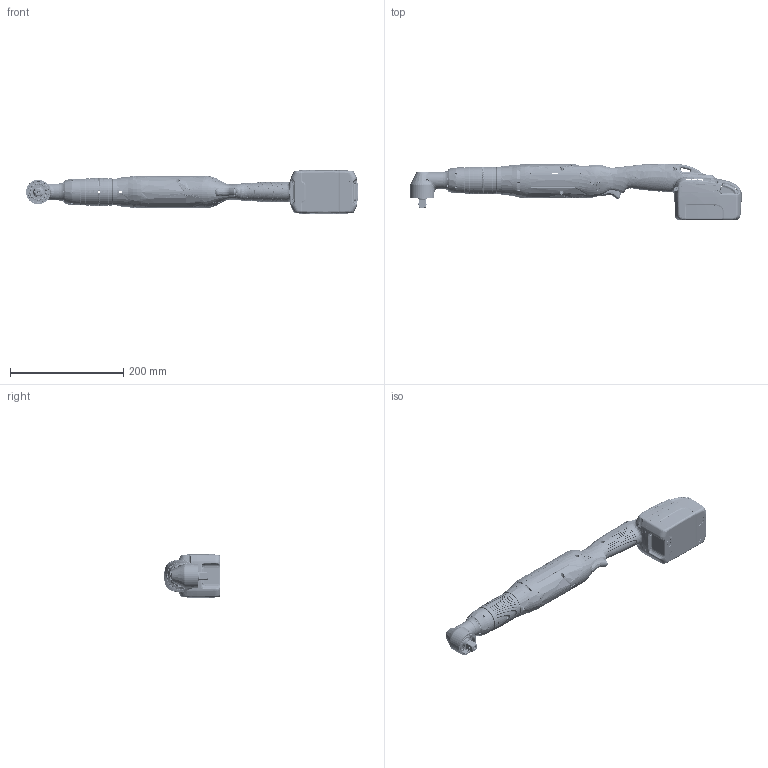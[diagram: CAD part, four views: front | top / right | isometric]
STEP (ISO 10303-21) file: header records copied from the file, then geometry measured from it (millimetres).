
FILE_DESCRIPTION((''),'2;1');
FILE_NAME('47532486001_ASM','2015-03-26T',('rryoung'),(''),'PRO/ENGINEER BY PARAMETRIC TECHNOLOGY CORPORATION, 2014430','PRO/ENGINEER BY PARAMETRIC TECHNOLOGY CORPORATION, 2014430','');
FILE_SCHEMA(('CONFIG_CONTROL_DESIGN'));
Products named in the file (44): 47518203001; 47518204001; 47518205001_ASM; 80119985; 80119977; 80120017_ASM; 47525369001; 03485760; 03485802; 03672441; 04348454; 22040760; 22041172; 03654712; 03654720; 03485729; 03123999; 03064201; 03072766; 47527609001_ASM; 47511904001; 47511179001; 22041180; 24482051; 24586463; 45500642; 24260093_ASM; 24361370; 47522589001; 47523342001; 24279325; 47086400; 24435927; 47523342001_ASM; 47086434; 47518949001; 47113931; 47113949; 47518949001_ASM; 47513322001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
Assembly tree (45 placements, depth 4):
  47532486001_ASM
    47518205001_ASM
      47518203001
      47518204001
    47527609001_ASM
      80120017_ASM
        80119985
        80119977
      47525369001
      03485760
      03485802
      03672441
      04348454
      22040760
      22041172
      03654712
      03654720
      03485729
      03123999
      03064201
      03072766
    47511904001
    47511179001
    22041180
    24482051
    24260093_ASM
      24586463
      45500642
    24361370
    47522589001
    47523342001_ASM
      47523342001
      24279325
      47086400
      24435927
    47086434
    47518949001_ASM
      47518949001
      47113931
      47113949  x3
    47513322001
    47516903001
    47118229
    47118237
Bounding box: 586.06 x 99.82 x 78.15 mm (x, y, z)
Volume: 467181.2 mm3; surface area: 387973.9 mm2
Topology: 91 solids, 93 shells, 17251 faces, 43705 edges, 26525 vertices
Faces by surface type: plane 5146, bspline 5005, cylinder 4146, torus 1227, cone 746, extrusion 516, sphere 412, revolution 53
Entity records: 805749 total; most frequent: CARTESIAN_POINT 440676, ORIENTED_EDGE 86050, DIRECTION 60154, EDGE_CURVE 43025, VERTEX_POINT 26429, AXIS2_PLACEMENT_3D 21944, EDGE_LOOP 17822, B_SPLINE_CURVE_WITH_KNOTS 17691
